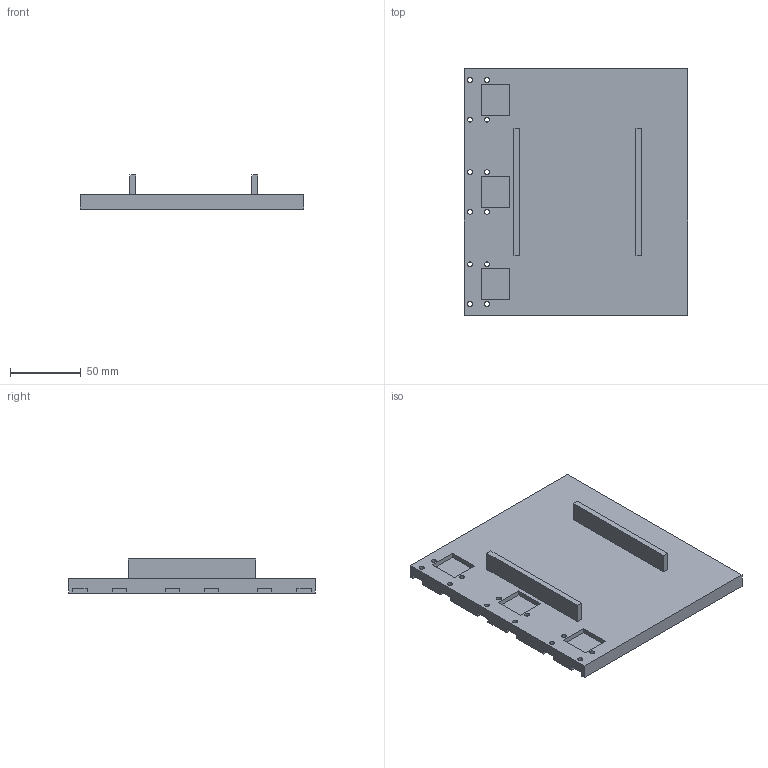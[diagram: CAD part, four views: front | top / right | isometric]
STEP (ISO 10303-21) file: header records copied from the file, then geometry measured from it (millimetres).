
FILE_DESCRIPTION(('Open CASCADE Model'),'2;1');
FILE_NAME('F09-BASE','2026-11-15T22:32:10',('Author'),('Open CASCADE'), 'Open CASCADE STEP processor 8.0','build123d','Unknown');
FILE_SCHEMA(('AUTOMOTIVE_DESIGN { 1 0 10303 214 1 1 1 1 }'));
Length unit declared in the file: millimetre
Products named in the file (1): F09-BASE
Bounding box: 157.5 x 173.5 x 24 mm (x, y, z)
Volume: 274516.3 mm3; surface area: 69146.6 mm2
Topology: 1 solids, 1 shells, 97 faces, 252 edges, 168 vertices
Faces by surface type: plane 85, cylinder 12
Full cylindrical faces by diameter (mm): 3.4 x12
Entity records: 6104 total; most frequent: CARTESIAN_POINT 1182, DIRECTION 816, LINE 548, VECTOR 548, ORIENTED_EDGE 504, PCURVE 504, DEFINITIONAL_REPRESENTATION 504, EDGE_CURVE 252
